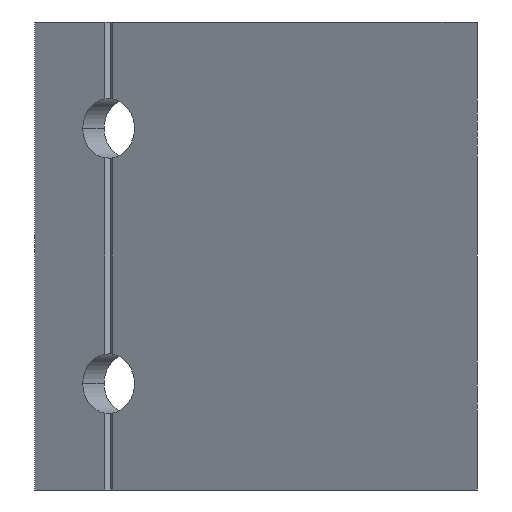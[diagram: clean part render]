
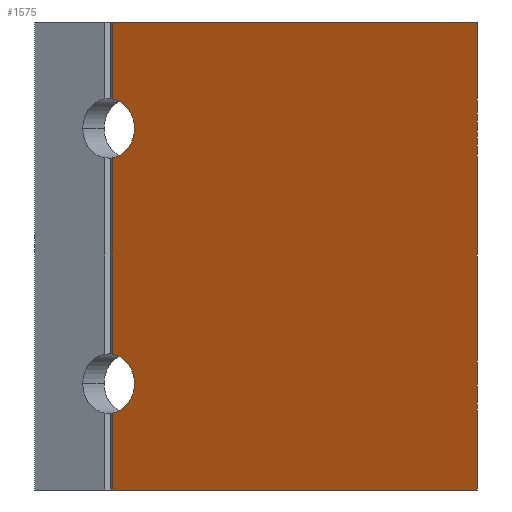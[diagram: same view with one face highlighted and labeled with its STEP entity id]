
A CAD part, left-side view. The second image highlights one B-rep face of the part: STEP entity #1575.
In plain terms, the highlighted planar face has unit normal (-0.866, 0.5, 0).
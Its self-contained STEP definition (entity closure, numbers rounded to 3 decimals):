
#58 = EDGE_CURVE ( 'NONE', #524, #728, #831, .T. ) ;
#74 = EDGE_CURVE ( 'NONE', #534, #664, #855, .T. ) ;
#91 = AXIS2_PLACEMENT_3D ( 'NONE', #1255, #1247, #1229 ) ;
#111 = AXIS2_PLACEMENT_3D ( 'NONE', #1306, #1305, #1303 ) ;
#115 = EDGE_CURVE ( 'NONE', #664, #1035, #525, .T. ) ;
#134 = EDGE_CURVE ( 'NONE', #524, #509, #580, .T. ) ;
#139 = EDGE_CURVE ( 'NONE', #1059, #728, #934, .T. ) ;
#150 = EDGE_CURVE ( 'NONE', #502, #534, #536, .T. ) ;
#166 = AXIS2_PLACEMENT_3D ( 'NONE', #433, #465, #448 ) ;
#172 = EDGE_CURVE ( 'NONE', #509, #874, #758, .T. ) ;
#199 = EDGE_CURVE ( 'NONE', #683, #1059, #1712, .T. ) ;
#245 = AXIS2_PLACEMENT_3D ( 'NONE', #1080, #430, #1069 ) ;
#287 = EDGE_CURVE ( 'NONE', #1035, #683, #1762, .T. ) ;
#302 = EDGE_CURVE ( 'NONE', #874, #502, #1787, .T. ) ;
#304 = AXIS2_PLACEMENT_3D ( 'NONE', #490, #477, #423 ) ;
#423 = DIRECTION ( 'NONE',  ( -0.5, -0.866, 0. ) ) ;
#427 = CARTESIAN_POINT ( 'NONE',  ( 0., 0., -27.5 ) ) ;
#430 = DIRECTION ( 'NONE',  ( 0.866, -0.5, 0. ) ) ;
#433 = CARTESIAN_POINT ( 'NONE',  ( 25., 43.301, 15. ) ) ;
#448 = DIRECTION ( 'NONE',  ( -0.5, -0.866, 0. ) ) ;
#462 = DIRECTION ( 'NONE',  ( -0.5, -0.866, 0. ) ) ;
#465 = DIRECTION ( 'NONE',  ( -0.866, 0.5, 0. ) ) ;
#477 = DIRECTION ( 'NONE',  ( -0.866, 0.5, 0. ) ) ;
#490 = CARTESIAN_POINT ( 'NONE',  ( 25., 43.301, 15. ) ) ;
#502 = VERTEX_POINT ( 'NONE', #1280 ) ;
#509 = VERTEX_POINT ( 'NONE', #1287 ) ;
#524 = VERTEX_POINT ( 'NONE', #1267 ) ;
#525 = CIRCLE ( 'NONE', #304, 3.5 ) ;
#534 = VERTEX_POINT ( 'NONE', #1260 ) ;
#536 = LINE ( 'NONE', #1370, #836 ) ;
#579 = EDGE_LOOP ( 'NONE', ( #791, #938, #906, #632, #974, #723, #885, #821, #886, #921 ) ) ;
#580 = LINE ( 'NONE', #1495, #908 ) ;
#632 = ORIENTED_EDGE ( 'NONE', *, *, #134, .F. ) ;
#664 = VERTEX_POINT ( 'NONE', #1235 ) ;
#683 = VERTEX_POINT ( 'NONE', #1242 ) ;
#723 = ORIENTED_EDGE ( 'NONE', *, *, #139, .F. ) ;
#728 = VERTEX_POINT ( 'NONE', #1224 ) ;
#758 = CIRCLE ( 'NONE', #91, 3.5 ) ;
#789 = VECTOR ( 'NONE', #1445, 1000. ) ;
#791 = ORIENTED_EDGE ( 'NONE', *, *, #150, .F. ) ;
#821 = ORIENTED_EDGE ( 'NONE', *, *, #287, .F. ) ;
#831 = LINE ( 'NONE', #427, #1001 ) ;
#836 = VECTOR ( 'NONE', #1368, 1000. ) ;
#855 = CIRCLE ( 'NONE', #166, 3.5 ) ;
#874 = VERTEX_POINT ( 'NONE', #1191 ) ;
#885 = ORIENTED_EDGE ( 'NONE', *, *, #199, .F. ) ;
#886 = ORIENTED_EDGE ( 'NONE', *, *, #115, .F. ) ;
#906 = ORIENTED_EDGE ( 'NONE', *, *, #172, .F. ) ;
#908 = VECTOR ( 'NONE', #1490, 1000. ) ;
#921 = ORIENTED_EDGE ( 'NONE', *, *, #74, .F. ) ;
#934 = LINE ( 'NONE', #1462, #789 ) ;
#938 = ORIENTED_EDGE ( 'NONE', *, *, #302, .F. ) ;
#974 = ORIENTED_EDGE ( 'NONE', *, *, #58, .T. ) ;
#1001 = VECTOR ( 'NONE', #462, 1000. ) ;
#1035 = VERTEX_POINT ( 'NONE', #1153 ) ;
#1059 = VERTEX_POINT ( 'NONE', #1144 ) ;
#1069 = DIRECTION ( 'NONE',  ( 0.5, 0.866, 0. ) ) ;
#1071 = PLANE ( 'NONE',  #245 ) ;
#1080 = CARTESIAN_POINT ( 'NONE',  ( 0., 0., 27.5 ) ) ;
#1112 = DIRECTION ( 'NONE',  ( -0.5, -0.866, 0. ) ) ;
#1129 = CARTESIAN_POINT ( 'NONE',  ( 0., 0., 27.5 ) ) ;
#1144 = CARTESIAN_POINT ( 'NONE',  ( 0., 0., 27.5 ) ) ;
#1153 = CARTESIAN_POINT ( 'NONE',  ( 24.75, 42.868, 18.464 ) ) ;
#1191 = CARTESIAN_POINT ( 'NONE',  ( 23.25, 40.27, -15. ) ) ;
#1224 = CARTESIAN_POINT ( 'NONE',  ( 0., 0., -27.5 ) ) ;
#1229 = DIRECTION ( 'NONE',  ( -0.5, -0.866, 0. ) ) ;
#1235 = CARTESIAN_POINT ( 'NONE',  ( 23.25, 40.27, 15. ) ) ;
#1242 = CARTESIAN_POINT ( 'NONE',  ( 24.75, 42.868, 27.5 ) ) ;
#1247 = DIRECTION ( 'NONE',  ( -0.866, 0.5, 0. ) ) ;
#1255 = CARTESIAN_POINT ( 'NONE',  ( 25., 43.301, -15. ) ) ;
#1260 = CARTESIAN_POINT ( 'NONE',  ( 24.75, 42.868, 11.536 ) ) ;
#1267 = CARTESIAN_POINT ( 'NONE',  ( 24.75, 42.868, -27.5 ) ) ;
#1280 = CARTESIAN_POINT ( 'NONE',  ( 24.75, 42.868, -11.536 ) ) ;
#1287 = CARTESIAN_POINT ( 'NONE',  ( 24.75, 42.868, -18.464 ) ) ;
#1303 = DIRECTION ( 'NONE',  ( -0.5, -0.866, 0. ) ) ;
#1305 = DIRECTION ( 'NONE',  ( -0.866, 0.5, 0. ) ) ;
#1306 = CARTESIAN_POINT ( 'NONE',  ( 25., 43.301, -15. ) ) ;
#1335 = DIRECTION ( 'NONE',  ( 0., 0., 1. ) ) ;
#1339 = CARTESIAN_POINT ( 'NONE',  ( 24.75, 42.868, -27.501 ) ) ;
#1368 = DIRECTION ( 'NONE',  ( 0., 0., 1. ) ) ;
#1370 = CARTESIAN_POINT ( 'NONE',  ( 24.75, 42.868, -27.501 ) ) ;
#1445 = DIRECTION ( 'NONE',  ( 0., 0., -1. ) ) ;
#1462 = CARTESIAN_POINT ( 'NONE',  ( 0., 0., 27.5 ) ) ;
#1490 = DIRECTION ( 'NONE',  ( 0., 0., 1. ) ) ;
#1495 = CARTESIAN_POINT ( 'NONE',  ( 24.75, 42.868, -27.501 ) ) ;
#1575 = ADVANCED_FACE ( 'NONE', ( #1618 ), #1071, .F. ) ;
#1618 = FACE_OUTER_BOUND ( 'NONE', #579, .T. ) ;
#1712 = LINE ( 'NONE', #1129, #1809 ) ;
#1739 = VECTOR ( 'NONE', #1335, 1000. ) ;
#1762 = LINE ( 'NONE', #1339, #1739 ) ;
#1787 = CIRCLE ( 'NONE', #111, 3.5 ) ;
#1809 = VECTOR ( 'NONE', #1112, 1000. ) ;
